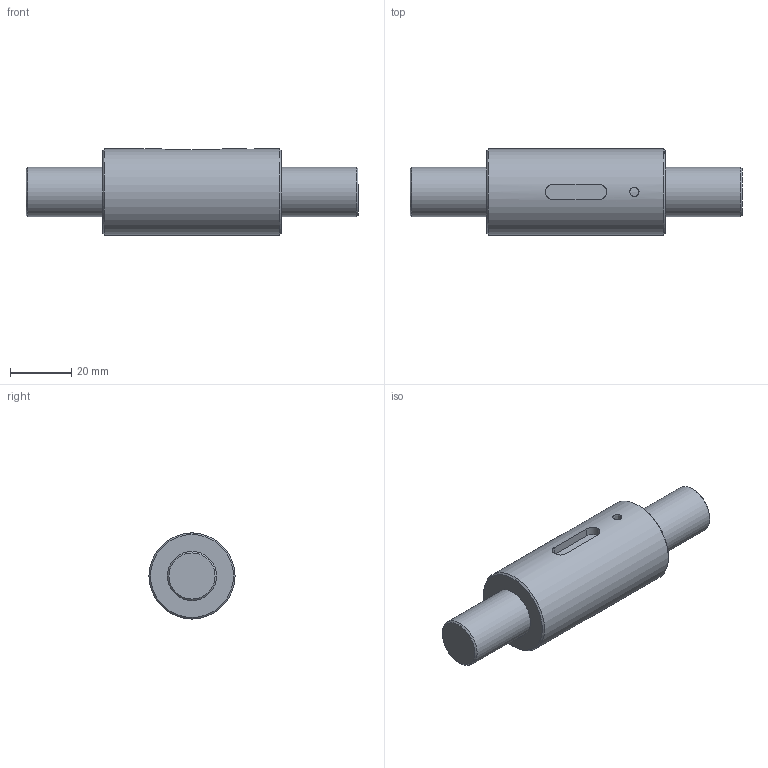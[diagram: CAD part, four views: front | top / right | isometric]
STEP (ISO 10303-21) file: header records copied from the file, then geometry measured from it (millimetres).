
FILE_DESCRIPTION(/* description */ (''),/* implementation_level */ '2;1');
FILE_NAME(/* name */ 'SCNH1620.stp',/* time_stamp */ '2017-03-08T10:46:11+08:00',/* author */ (''),/* organization */ (''),/* preprocessor_version */ 'ST-DEVELOPER v11',/* originating_system */ 'SIEMENS UGS NX 6.0',/* authorisation */ '');
FILE_SCHEMA (('CONFIG_CONTROL_DESIGN'));
Length unit declared in the file: millimetre
Products named in the file (1): SCNH1620
Bounding box: 108 x 28 x 28 mm (x, y, z)
Volume: 46576.2 mm3; surface area: 17203.7 mm2
Topology: 5 solids, 5 shells, 206 faces, 578 edges, 383 vertices
Faces by surface type: cylinder 101, plane 79, cone 10, bspline 9, extrusion 6, torus 1
Full cylindrical faces by diameter (mm): 1.5 x6, 16 x3, 28 x1
Entity records: 9504 total; most frequent: CARTESIAN_POINT 4501, ORIENTED_EDGE 1118, DIRECTION 854, EDGE_CURVE 559, VERTEX_POINT 378, AXIS2_PLACEMENT_3D 313, EDGE_LOOP 241, VECTOR 228
